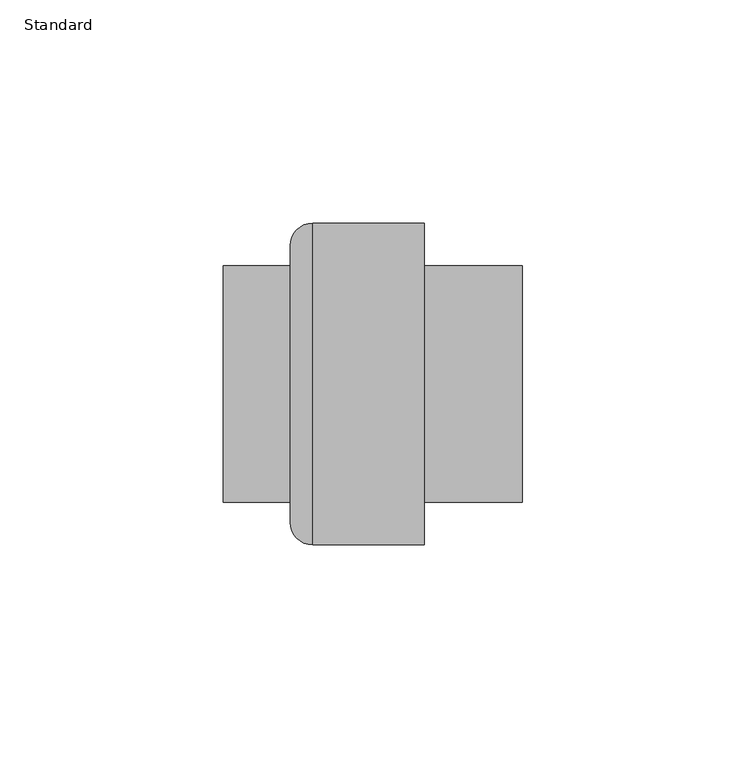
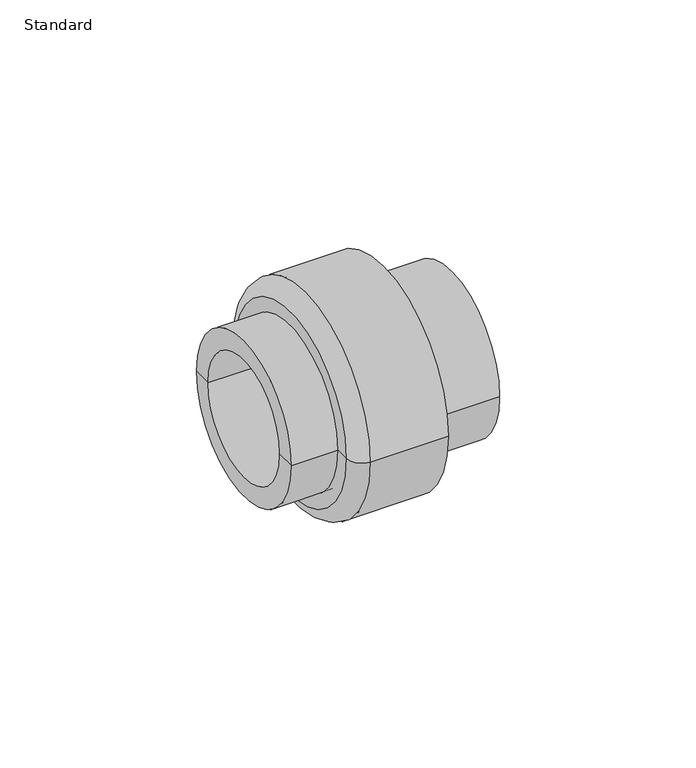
"""IFC4 building model written with IfcOpenShell, lengths in millimetres: pipe fitting geometry, Durapipe_PipeFitting_PVC_SocketUnions : Standard."""

from ifc_helpers import new_model, si_unit, point, frame, origin, place, context, project, spatial, polyline, circle_curve, ellipse_curve, trimmed, source, transform, mapped, element, save
from ifc_brep_helpers import plane_surface, cylinder_surface, revolved_surface, advanced_brep


def standard_79d2ad80(model_context):
    return source(origin(), model_context, "Body", "AdvancedBrep", [
        advanced_brep(
        [(-27.5, -26.5, 0.0), (-27.5, 26.5, 0.0), (-27.5, 31.0, 0.0), (-27.5, -31.0, 0.0), (2.5, -36.0, 0.0), (2.5, 36.0, 0.0), (2.5, 26.5, 0.0), (2.5, -26.5, 0.0), (-22.5, -36.0, 0.0), (-22.5, 36.0, 0.0)],
        [
            (0, 1, circle_curve(frame((-27.5, 0.0, 0.0), z_axis=(1.0, 0.0, 0.0), x_axis=(0.0, 1.0, 0.0)), 26.5)),
            (1, 2),
            (2, 3, circle_curve(frame((-27.5, 0.0, 0.0), z_axis=(-1.0, 0.0, 0.0), x_axis=(0.0, 1.0, 0.0)), 31.0)),
            (3, 0),
            (1, 0, circle_curve(frame((-27.5, 0.0, 0.0), z_axis=(1.0, 0.0, 0.0), x_axis=(0.0, 1.0, 0.0)), 26.5)),
            (3, 2, circle_curve(frame((-27.5, 0.0, 0.0), z_axis=(-1.0, 0.0, 0.0), x_axis=(0.0, 1.0, 0.0)), 31.0)),
            (4, 5, circle_curve(frame((2.5, 0.0, 0.0), z_axis=(1.0, 0.0, 0.0), x_axis=(0.0, 1.0, 0.0)), 36.0)),
            (5, 6),
            (6, 7, circle_curve(frame((2.5, 0.0, 0.0), z_axis=(-1.0, 0.0, 0.0), x_axis=(0.0, 1.0, 0.0)), 26.5)),
            (7, 4),
            (5, 4, circle_curve(frame((2.5, 0.0, 0.0), z_axis=(1.0, 0.0, 0.0), x_axis=(0.0, 1.0, 0.0)), 36.0)),
            (7, 6, circle_curve(frame((2.5, 0.0, 0.0), z_axis=(-1.0, 0.0, 0.0), x_axis=(0.0, 1.0, 0.0)), 26.5)),
            (8, 9, circle_curve(frame((-22.5, 0.0, 0.0), z_axis=(1.0, 0.0, 0.0), x_axis=(0.0, 1.0, 0.0)), 36.0)),
            (9, 5),
            (4, 8),
            (9, 8, circle_curve(frame((-22.5, 0.0, 0.0), z_axis=(1.0, 0.0, 0.0), x_axis=(0.0, 1.0, 0.0)), 36.0)),
            (2, 9, circle_curve(frame((-22.5, 31.0, 0.0), z_axis=(0.0, 0.0, -1.0), x_axis=(1.0, 0.0, 0.0)), 5.0)),
            (8, 3, circle_curve(frame((-22.5, -31.0, 0.0), z_axis=(0.0, 0.0, -1.0), x_axis=(1.0, 0.0, 0.0)), 5.0)),
            (6, 1),
            (0, 7),
        ],
        [
            plane_surface(frame((-27.5, 0.0, 0.0), z_axis=(-1.0, 0.0, 0.0), x_axis=(0.0, 1.0, 0.0))),
            plane_surface(frame((2.5, 0.0, 0.0), z_axis=(1.0, 0.0, 0.0), x_axis=(0.0, 1.0, 0.0))),
            cylinder_surface(frame((2000.0, 0.0, 0.0), z_axis=(-1.0, 0.0, 0.0), x_axis=(0.0, 1.0, 0.0)), 36.0),
            revolved_surface(trimmed(ellipse_curve(frame((-22.5, 31.0, 0.0), z_axis=(0.0, 0.0, 1.0), x_axis=(1.0, 0.0, 0.0)), 5.0, 5.0), [point((-22.5, 36.0, 0.0))], [point((-27.5, 31.0, 0.0))], True, "CARTESIAN"), (2000.0, 0.0, 0.0), (-1.0, 0.0, 0.0)),
            revolved_surface(polyline([(-27.5, 26.5, 0.0), (2.5, 26.5, 0.0)]), (2000.0, 0.0, 0.0), (-1.0, 0.0, 0.0)),
        ],
        [
            (0, [[1, 2, 3, 4]]),
            (0, [[5, -4, 6, -2]]),
            (1, [[7, 8, 9, 10]]),
            (1, [[11, -10, 12, -8]]),
            (2, [[13, 14, -7, 15]]),
            (2, [[16, -15, -11, -14]]),
            (3, [[-3, 17, -13, 18]]),
            (3, [[-6, -18, -16, -17]]),
            (4, [[-9, 19, -1, 20]]),
            (4, [[-12, -20, -5, -19]]),
        ],
    ),
        advanced_brep(
        [(-16.5, -20.0, 0.0), (-16.5, 20.0, 0.0), (-42.5, 20.0, 0.0), (-42.5, -20.0, 0.0), (-16.5, 0.0, 0.0), (-1.5, -20.0, 0.0), (-1.5, 20.0, 0.0), (-1.5, 0.0, 0.0), (-42.5, -26.5, 0.0), (-42.5, 26.5, 0.0), (24.5, 26.5, 0.0), (24.5, -26.5, 0.0), (24.5, -20.0, 0.0), (24.5, 20.0, 0.0)],
        [
            (0, 1, circle_curve(frame((-16.5, 0.0, 0.0), z_axis=(1.0, 0.0, 0.0), x_axis=(0.0, 1.0, 0.0)), 20.0)),
            (1, 2),
            (2, 3, circle_curve(frame((-42.5, 0.0, 0.0), z_axis=(-1.0, 0.0, 0.0), x_axis=(0.0, 1.0, 0.0)), 20.0)),
            (3, 0),
            (1, 0, circle_curve(frame((-16.5, 0.0, 0.0), z_axis=(1.0, 0.0, 0.0), x_axis=(0.0, 1.0, 0.0)), 20.0)),
            (3, 2, circle_curve(frame((-42.5, 0.0, 0.0), z_axis=(-1.0, 0.0, 0.0), x_axis=(0.0, 1.0, 0.0)), 20.0)),
            (4, 1),
            (0, 4),
            (5, 6, circle_curve(frame((-1.5, 0.0, 0.0), z_axis=(1.0, 0.0, 0.0), x_axis=(0.0, 1.0, 0.0)), 20.0)),
            (6, 7),
            (7, 5),
            (6, 5, circle_curve(frame((-1.5, 0.0, 0.0), z_axis=(1.0, 0.0, 0.0), x_axis=(0.0, 1.0, 0.0)), 20.0)),
            (8, 9, circle_curve(frame((-42.5, 0.0, 0.0), z_axis=(1.0, 0.0, 0.0), x_axis=(0.0, 1.0, 0.0)), 26.5)),
            (9, 10),
            (10, 11, circle_curve(frame((24.5, 0.0, 0.0), z_axis=(-1.0, 0.0, 0.0), x_axis=(0.0, 1.0, 0.0)), 26.5)),
            (11, 8),
            (9, 8, circle_curve(frame((-42.5, 0.0, 0.0), z_axis=(1.0, 0.0, 0.0), x_axis=(0.0, 1.0, 0.0)), 26.5)),
            (11, 10, circle_curve(frame((24.5, 0.0, 0.0), z_axis=(-1.0, 0.0, 0.0), x_axis=(0.0, 1.0, 0.0)), 26.5)),
            (2, 9),
            (8, 3),
            (12, 13, circle_curve(frame((24.5, 0.0, 0.0), z_axis=(1.0, 0.0, 0.0), x_axis=(0.0, 1.0, 0.0)), 20.0)),
            (13, 6),
            (5, 12),
            (13, 12, circle_curve(frame((24.5, 0.0, 0.0), z_axis=(1.0, 0.0, 0.0), x_axis=(0.0, 1.0, 0.0)), 20.0)),
            (10, 13),
            (12, 11),
        ],
        [
            revolved_surface(polyline([(-42.5, 20.0, 0.0), (-16.5, 20.0, 0.0)]), (2000.0, 0.0, 0.0), (-1.0, 0.0, 0.0)),
            plane_surface(frame((-16.5, 0.0, 0.0), z_axis=(-1.0, 0.0, 0.0), x_axis=(0.0, 1.0, 0.0))),
            plane_surface(frame((-1.5, 0.0, 0.0), z_axis=(1.0, 0.0, 0.0), x_axis=(0.0, 1.0, 0.0))),
            cylinder_surface(frame((2000.0, 0.0, 0.0), z_axis=(-1.0, 0.0, 0.0), x_axis=(0.0, 1.0, 0.0)), 26.5),
            plane_surface(frame((-42.5, 0.0, 0.0), z_axis=(-1.0, 0.0, 0.0), x_axis=(0.0, 1.0, 0.0))),
            revolved_surface(polyline([(-1.5, 20.0, 0.0), (24.5, 20.0, 0.0)]), (2000.0, 0.0, 0.0), (-1.0, 0.0, 0.0)),
            plane_surface(frame((24.5, 0.0, 0.0), z_axis=(1.0, 0.0, 0.0), x_axis=(0.0, 1.0, 0.0))),
        ],
        [
            (0, [[1, 2, 3, 4]]),
            (0, [[5, -4, 6, -2]]),
            (1, [[7, -1, 8]]),
            (1, [[-8, -5, -7]]),
            (2, [[9, 10, 11]]),
            (2, [[12, -11, -10]]),
            (3, [[13, 14, 15, 16]]),
            (3, [[17, -16, 18, -14]]),
            (4, [[-3, 19, -13, 20]]),
            (4, [[-6, -20, -17, -19]]),
            (5, [[21, 22, -9, 23]]),
            (5, [[24, -23, -12, -22]]),
            (6, [[-15, 25, -21, 26]]),
            (6, [[-18, -26, -24, -25]]),
        ],
    ),
    ])


if __name__ == "__main__":
    model = new_model("IFC4")
    model_context = context("Model", 3, world=origin())
    ifc_project = project(units=[si_unit("LENGTHUNIT", "METRE", prefix="MILLI")], contexts=[model_context])
    site = spatial("IfcSite", under=ifc_project)
    building = spatial("IfcBuilding", under=site)
    placement = place(None, origin())
    standard_shape = standard_79d2ad80(model_context)
    element("IfcPipeFitting", 1, ObjectType="Durapipe_PipeFitting_PVC_SocketUnions : Standard", at=placement, inside=building, context=model_context, shape_type="MappedRepresentation", body=[
        mapped(standard_shape, transform((0.0, 0.0, 0.0), x_axis=(1.0, 0.0, 0.0), y_axis=(0.0, 1.0, 0.0), z_axis=(0.0, 0.0, 1.0))),
    ])
    save(model, "model.ifc")
